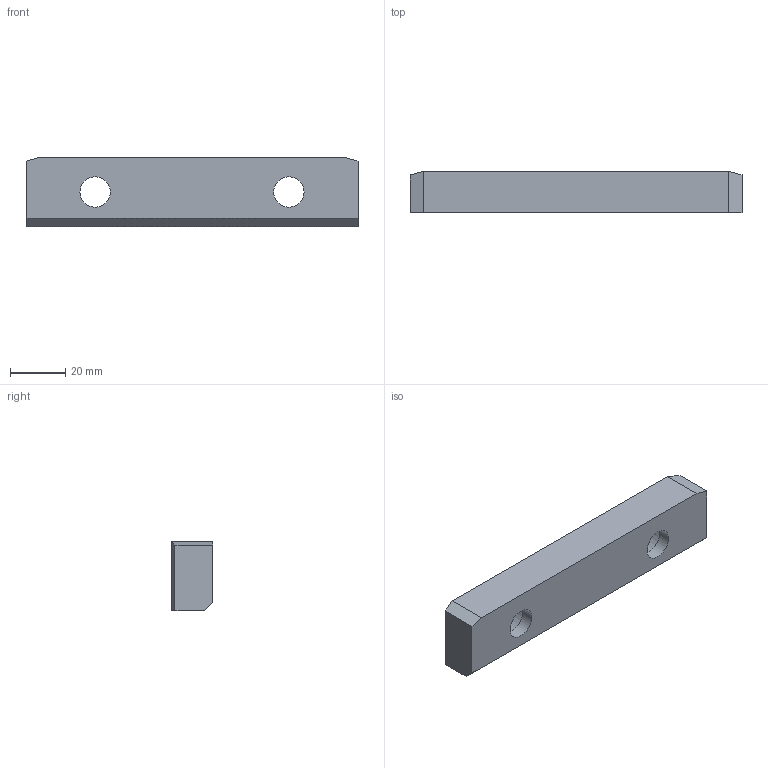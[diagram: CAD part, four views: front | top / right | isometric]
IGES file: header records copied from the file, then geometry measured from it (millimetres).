
Start section: Data from Parasolid IGES Translator 20.0.26, Copyright(c) 2006 Siemens P LM Software. All Rights Reserved.
Global section: file name: G224-12-015-120.igs; native system: By Siemens PLM Incorporated; preprocessor: XPlus GENERIC/IGES 20.0.26; author: Noname; organization: Noname; date: 20190709.085142; units: millimetre
Bounding box: 120 x 15 x 25 mm (x, y, z)
Surface area: 11131.8 mm2 (no closed solid volume)
Topology: 0 solids, 0 shells, 17 faces, 74 edges, 70 vertices
Faces by surface type: extrusion 13, revolution 4
